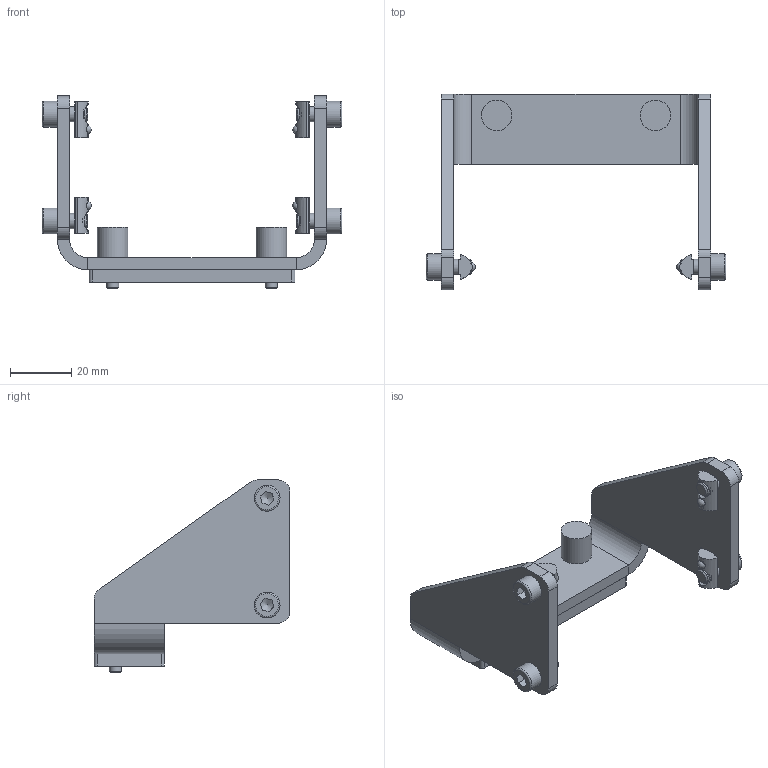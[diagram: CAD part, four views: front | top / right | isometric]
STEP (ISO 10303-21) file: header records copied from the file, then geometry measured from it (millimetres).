
FILE_DESCRIPTION(/* description */ ('External Block Assembly'),/* implementation_level */ '2;1');
FILE_NAME(/* name */ 'D:\InventorWorkspace2017\CAD\Projekte_EDEM\HLR\Zubehörteile\0242.036.stp',/* time_stamp */ '2019-02-13T11:57:01+01:00',/* author */ ('544672'),/* organization */ (''),/* preprocessor_version */ 'ST-DEVELOPER v16.5',/* originating_system */ 'Autodesk Inventor 2017',/* authorisation */ '');
FILE_SCHEMA (('AUTOMOTIVE_DESIGN { 1 0 10303 214 3 1 1 }'));
Length unit declared in the file: millimetre
Products named in the file (7): 0241.036; 0241.025; 0241.025_1; 0241.025_2; 0231.920; 0231.921; 135-721029
Assembly tree (13 placements, depth 3):
  0241.036
    0241.025
      0241.025_1
      0241.025_2
    0231.920  x2
    0231.921  x4
    135-721029  x4
Bounding box: 98.2 x 64.2 x 63 mm (x, y, z)
Volume: 35044 mm3; surface area: 22986.8 mm2
Topology: 12 solids, 12 shells, 232 faces, 618 edges, 400 vertices
Faces by surface type: plane 106, cylinder 76, bspline 16, cone 14, sphere 12, torus 8
Full cylindrical faces by diameter (mm): 3.242 x2, 4 x2, 4.3 x2, 5 x4, 5.3 x4, 8.5 x4, 10 x2
Entity records: 4133 total; most frequent: CARTESIAN_POINT 1545, DIRECTION 510, ORIENTED_EDGE 460, EDGE_CURVE 230, AXIS2_PLACEMENT_3D 196, VERTEX_POINT 157, EDGE_LOOP 137, LINE 118
